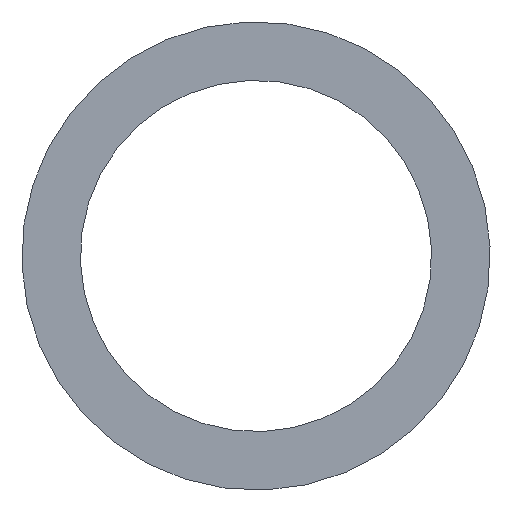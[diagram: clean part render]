
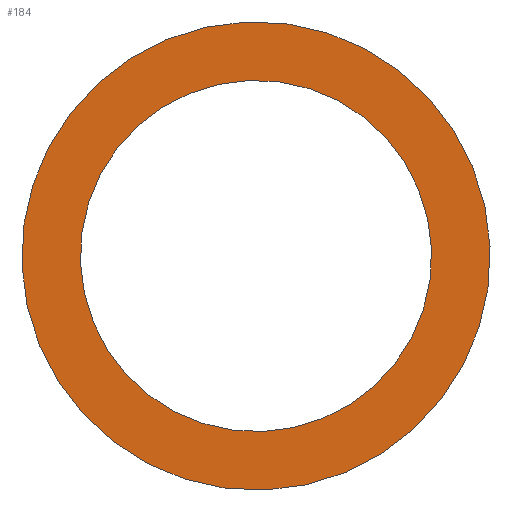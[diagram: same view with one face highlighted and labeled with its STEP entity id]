
A CAD part, front view. The second image highlights one B-rep face of the part: STEP entity #184.
In plain terms, the highlighted planar face has unit normal (0, -1, 0).
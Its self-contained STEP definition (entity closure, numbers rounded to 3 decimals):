
#2 = AXIS2_PLACEMENT_3D ( 'NONE', #163, #100, #24 ) ;
#3 = VERTEX_POINT ( 'NONE', #37 ) ;
#10 = DIRECTION ( 'NONE',  ( 0., -1., 0. ) ) ;
#11 = CARTESIAN_POINT ( 'NONE',  ( 225.645, 17.5, -21.73 ) ) ;
#12 = CARTESIAN_POINT ( 'NONE',  ( 225., 17.5, -18.8 ) ) ;
#14 = DIRECTION ( 'NONE',  ( -0.977, 0., -0.215 ) ) ;
#24 = DIRECTION ( 'NONE',  ( 0.215, 0., -0.977 ) ) ;
#37 = CARTESIAN_POINT ( 'NONE',  ( 225.859, 17.5, -22.707 ) ) ;
#41 = DIRECTION ( 'NONE',  ( 0.215, 0., -0.977 ) ) ;
#42 = EDGE_CURVE ( 'NONE', #138, #77, #91, .T. ) ;
#44 = ORIENTED_EDGE ( 'NONE', *, *, #61, .T. ) ;
#49 = EDGE_CURVE ( 'NONE', #138, #77, #173, .T. ) ;
#59 = ORIENTED_EDGE ( 'NONE', *, *, #42, .T. ) ;
#61 = EDGE_CURVE ( 'NONE', #3, #108, #188, .T. ) ;
#62 = AXIS2_PLACEMENT_3D ( 'NONE', #97, #149, #14 ) ;
#74 = AXIS2_PLACEMENT_3D ( 'NONE', #194, #135, #148 ) ;
#77 = VERTEX_POINT ( 'NONE', #102 ) ;
#78 = ORIENTED_EDGE ( 'NONE', *, *, #49, .F. ) ;
#86 = CIRCLE ( 'NONE', #2, 4. ) ;
#89 = DIRECTION ( 'NONE',  ( 0.215, 0., -0.977 ) ) ;
#91 = CIRCLE ( 'NONE', #74, 3. ) ;
#97 = CARTESIAN_POINT ( 'NONE',  ( 225., 17.5, -18.8 ) ) ;
#100 = DIRECTION ( 'NONE',  ( 0., 1., 0. ) ) ;
#102 = CARTESIAN_POINT ( 'NONE',  ( 224.355, 17.5, -15.87 ) ) ;
#108 = VERTEX_POINT ( 'NONE', #151 ) ;
#111 = PLANE ( 'NONE',  #62 ) ;
#122 = EDGE_LOOP ( 'NONE', ( #174, #44 ) ) ;
#123 = EDGE_LOOP ( 'NONE', ( #78, #59 ) ) ;
#135 = DIRECTION ( 'NONE',  ( 0., 1., 0. ) ) ;
#138 = VERTEX_POINT ( 'NONE', #11 ) ;
#146 = FACE_BOUND ( 'NONE', #123, .T. ) ;
#148 = DIRECTION ( 'NONE',  ( 0.215, 0., -0.977 ) ) ;
#149 = DIRECTION ( 'NONE',  ( 0., -1., 0. ) ) ;
#151 = CARTESIAN_POINT ( 'NONE',  ( 224.141, 17.5, -14.893 ) ) ;
#156 = AXIS2_PLACEMENT_3D ( 'NONE', #12, #10, #89 ) ;
#163 = CARTESIAN_POINT ( 'NONE',  ( 225., 17.5, -18.8 ) ) ;
#173 = CIRCLE ( 'NONE', #156, 3. ) ;
#174 = ORIENTED_EDGE ( 'NONE', *, *, #176, .F. ) ;
#176 = EDGE_CURVE ( 'NONE', #3, #108, #86, .T. ) ;
#180 = CARTESIAN_POINT ( 'NONE',  ( 225., 17.5, -18.8 ) ) ;
#182 = DIRECTION ( 'NONE',  ( 0., -1., 0. ) ) ;
#184 = ADVANCED_FACE ( 'NONE', ( #146, #193 ), #111, .T. ) ;
#188 = CIRCLE ( 'NONE', #190, 4. ) ;
#190 = AXIS2_PLACEMENT_3D ( 'NONE', #180, #182, #41 ) ;
#193 = FACE_OUTER_BOUND ( 'NONE', #122, .T. ) ;
#194 = CARTESIAN_POINT ( 'NONE',  ( 225., 17.5, -18.8 ) ) ;
